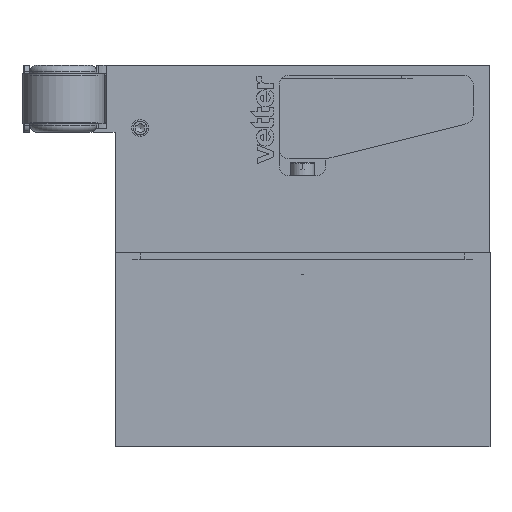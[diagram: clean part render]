
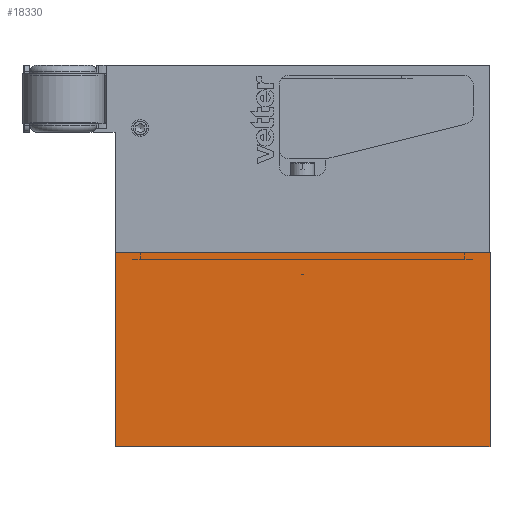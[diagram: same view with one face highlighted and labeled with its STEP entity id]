
A CAD part, left-side view. The second image highlights one B-rep face of the part: STEP entity #18330.
In plain terms, the highlighted planar face has unit normal (-1, 0, 0).
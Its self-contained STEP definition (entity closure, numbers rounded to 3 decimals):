
#1500=PLANE('',#19380);
#2212=FACE_OUTER_BOUND('',#3222,.T.);
#3222=EDGE_LOOP('',(#13771,#13772,#13773,#13774));
#4551=LINE('',#29601,#6078);
#4556=LINE('',#29611,#6083);
#4558=LINE('',#29615,#6085);
#4559=LINE('',#29616,#6086);
#6078=VECTOR('',#22016,10.);
#6083=VECTOR('',#22025,10.);
#6085=VECTOR('',#22029,10.);
#6086=VECTOR('',#22030,10.);
#7926=VERTEX_POINT('',#29598);
#7927=VERTEX_POINT('',#29600);
#7930=VERTEX_POINT('',#29610);
#7931=VERTEX_POINT('',#29614);
#10063=EDGE_CURVE('',#7927,#7926,#4551,.T.);
#10068=EDGE_CURVE('',#7930,#7927,#4556,.T.);
#10070=EDGE_CURVE('',#7931,#7926,#4558,.T.);
#10071=EDGE_CURVE('',#7931,#7930,#4559,.T.);
#13771=ORIENTED_EDGE('',*,*,#10063,.T.);
#13772=ORIENTED_EDGE('',*,*,#10070,.F.);
#13773=ORIENTED_EDGE('',*,*,#10071,.T.);
#13774=ORIENTED_EDGE('',*,*,#10068,.T.);
#18330=ADVANCED_FACE('',(#2212),#1500,.T.);
#19380=AXIS2_PLACEMENT_3D('',#29613,#22027,#22028);
#22016=DIRECTION('',(0.,1.,0.));
#22025=DIRECTION('',(0.,0.,1.));
#22027=DIRECTION('center_axis',(-1.,0.,0.));
#22028=DIRECTION('ref_axis',(0.,0.,
-1.));
#22029=DIRECTION('',(0.,0.,1.));
#22030=DIRECTION('',(0.,-1.,0.));
#29598=CARTESIAN_POINT('',(-50.,112.,2.));
#29600=CARTESIAN_POINT('',(-50.,0.,2.));
#29601=CARTESIAN_POINT('',(-50.,112.,2.));
#29610=CARTESIAN_POINT('',(-50.,0.,-56.));
#29611=CARTESIAN_POINT('',(-50.,0.,-56.));
#29613=CARTESIAN_POINT('Origin',(-50.,0.,
-56.));
#29614=CARTESIAN_POINT('',(-50.,112.,-56.));
#29615=CARTESIAN_POINT('',(-50.,112.,-56.));
#29616=CARTESIAN_POINT('',(-50.,112.,-56.));
